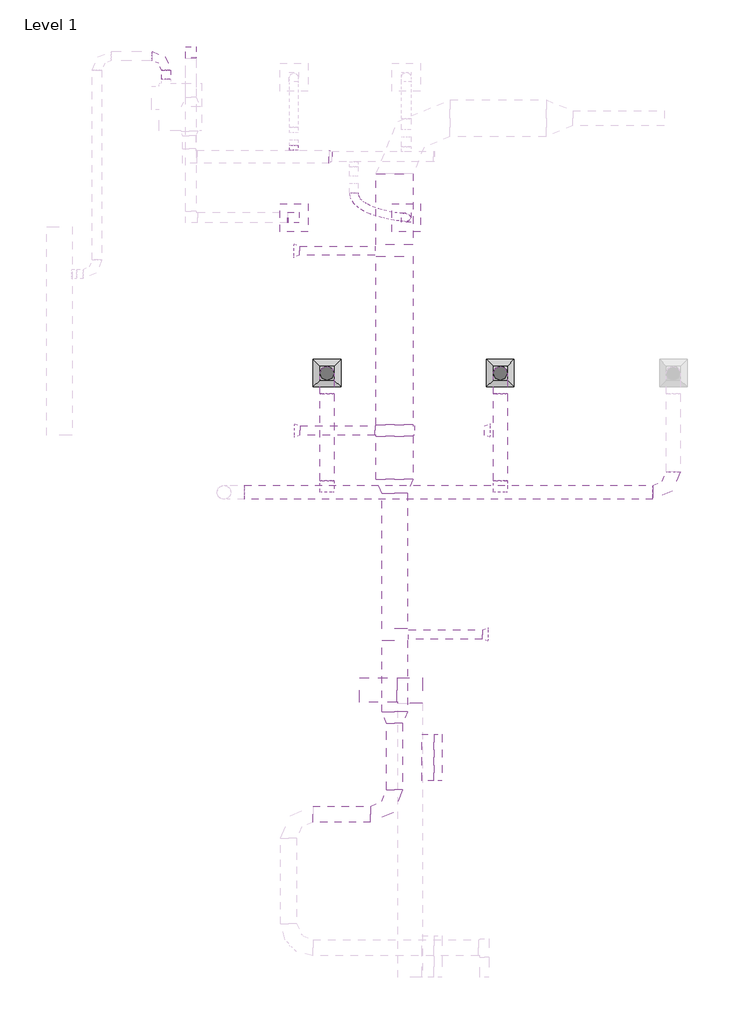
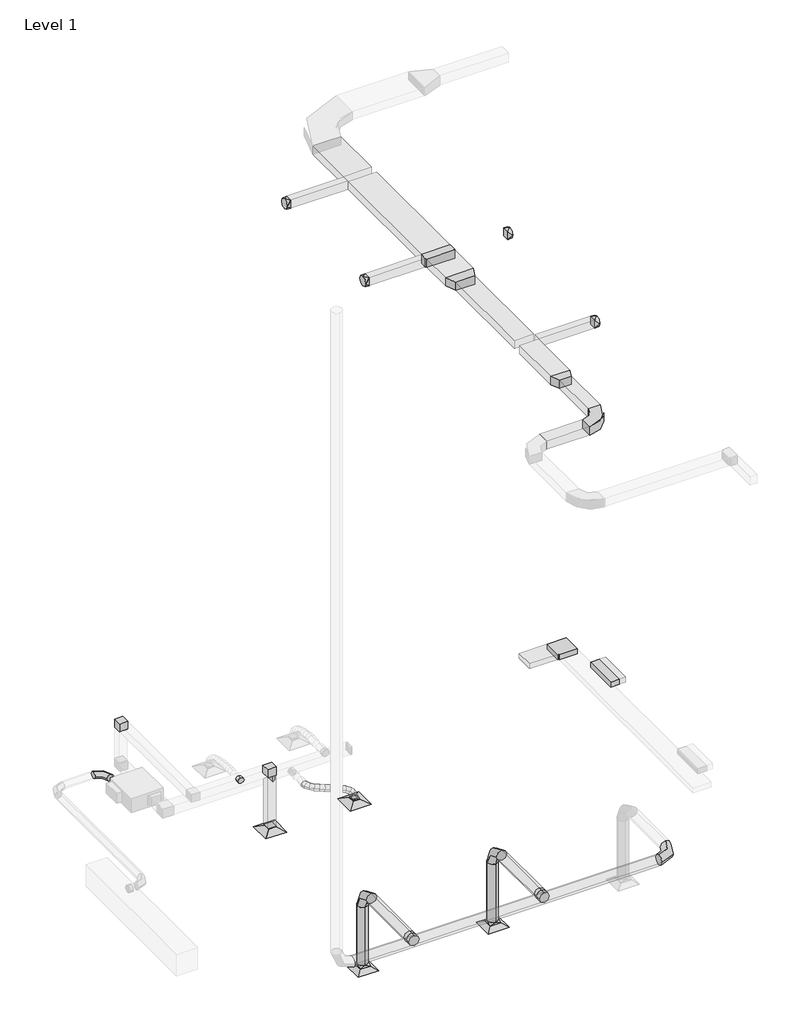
# One storey, part 6 of 7: 24 duct fittings, 20 duct segments, 4 air terminals.
"""IFC4 building model written with IfcOpenShell, lengths in millimetres."""

from ifc_helpers import new_model, si_unit, point, frame, frame_2d, origin, place, context, project, spatial, polyline, circle_curve, ellipse_curve, trimmed, segment, composite_curve, outline, extrude, transform, mapped, element, save
from ifc_brep_helpers import plane_surface, cylinder_surface, advanced_brep
from components import extract_grille_600_x_600_face_300_x_300_connection_8a0e72a1, return_diffuser_24_x_24_face_8_x_8_connection_c93705df, rectangular_cross_standard_00746d32, rectangular_elbow_mitered_standard_b28c36ac, rectangular_elbow_mitered_standard_6ca1f2d5, rectangular_elbow_radius_1_5_w_30cb73b9, rectangular_takeoff_standard_90e0e4da, rectangular_transition_angle_45_degree_7070cd09, rectangular_transition_angle_45_degree_58481bb1, rectangular_transition_angle_45_degree_8a643e5c, rectangular_transition_angle_45_degree_dc60f1d2, rectangular_to_round_transition_angle_45_degree_641efff0, rectangular_to_round_transition_angle_45_degree_389d55c9, rectangular_to_round_transition_angle_45_degree_714b46fd, round_elbow_1_5_d_83134554, round_elbow_1_5_d_ee9da881, round_takeoff_standard_db76dcd0, round_takeoff_standard_bc61291d

model = new_model("IFC4")

# Units and contexts
model_context = context("Model", 3, world=origin())
ifc_project = project(units=[si_unit("LENGTHUNIT", "METRE", prefix="MILLI")], contexts=[model_context])

# Site, building, storey
site = spatial("IfcSite", under=ifc_project)
building = spatial("IfcBuilding", under=site)
storey = spatial("IfcBuildingStorey", under=building, Name="Level 1", Elevation=0.0)

# Air terminals
placement = place(None, origin())
extract_grille_600_x_600_face_300_x_300_connection_shape = extract_grille_600_x_600_face_300_x_300_connection_8a0e72a1(model_context)
element("IfcAirTerminal", 1, ObjectType="Extract Grille : 600 x 600 Face 300 x 300 Connection", at=placement, inside=storey, context=model_context, shape_type="MappedRepresentation", body=[
    mapped(extract_grille_600_x_600_face_300_x_300_connection_shape, transform((4506.9369932, 10008.5089558, 0.0), x_axis=(1.0, 0.0, 0.0), y_axis=(0.0, 1.0, 0.0), z_axis=(0.0, 0.0, 1.0))),
])
element("IfcAirTerminal", 2, ObjectType="Extract Grille : 600 x 600 Face 300 x 300 Connection", at=placement, inside=storey, context=model_context, shape_type="MappedRepresentation", body=[
    mapped(extract_grille_600_x_600_face_300_x_300_connection_shape, transform((746.9369932, 10008.5089558, 0.0), x_axis=(1.0, 0.0, 0.0), y_axis=(0.0, 1.0, 0.0), z_axis=(0.0, 0.0, 1.0))),
])
return_diffuser_24_x_24_face_8_x_8_connection_shape = return_diffuser_24_x_24_face_8_x_8_connection_c93705df(model_context)
element("IfcAirTerminal", 3, ObjectType="Return Diffuser : 24 x 24 Face 8 x 8 Connection", at=placement, inside=storey, context=model_context, shape_type="MappedRepresentation", body=[
    mapped(return_diffuser_24_x_24_face_8_x_8_connection_shape, transform((25.949745, 13384.0612109, 2438.4), x_axis=(-1.0, 0.0, 0.0), y_axis=(0.0, -1.0, 0.0), z_axis=(0.0, 0.0, 1.0))),
])
element("IfcAirTerminal", 4, ObjectType="Supply Diffuser : 24 x 24 Face 8 x 8 Connection", at=placement, inside=storey, context=model_context, shape_type="MappedRepresentation", body=[
    mapped(return_diffuser_24_x_24_face_8_x_8_connection_shape, transform((2464.349745, 13384.0612109, 2438.4), x_axis=(-1.0, 0.0, 0.0), y_axis=(0.0, -1.0, 0.0), z_axis=(0.0, 0.0, 1.0))),
])

# Duct fittings
rectangular_cross_standard_shape = rectangular_cross_standard_00746d32(model_context)
element("IfcDuctFitting", 5, ObjectType="Rectangular Cross : Standard", at=placement, inside=storey, context=model_context, shape_type="MappedRepresentation", body=[
    mapped(rectangular_cross_standard_shape, transform((2213.8567543, 8760.722681, 21983.425), x_axis=(0.0, 1.0, 0.0), y_axis=(-0.9999999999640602, 0.0, -8.478184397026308e-06), z_axis=(-8.478184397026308e-06, 0.0, 0.9999999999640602))),
])
rectangular_elbow_mitered_standard_shape = rectangular_elbow_mitered_standard_b28c36ac(model_context)
element("IfcDuctFitting", 6, ObjectType="Rectangular Elbow - Mitered : Standard", at=placement, inside=storey, context=model_context, shape_type="MappedRepresentation", body=[
    mapped(rectangular_elbow_mitered_standard_shape, transform((-2206.7762728, 16980.0573996, 4267.2), x_axis=(0.0, 0.0, 1.0), y_axis=(0.0, 1.0, 0.0), z_axis=(-1.0, 0.0, 0.0))),
])
element("IfcDuctFitting", 7, ObjectType="Rectangular Elbow - Mitered : Standard", at=placement, inside=storey, context=model_context, shape_type="MappedRepresentation", body=[
    mapped(rectangular_elbow_mitered_standard_shape, transform((25.949745, 13384.0612109, 4267.2), x_axis=(1.0, 0.0, 0.0), y_axis=(0.0, 0.0, 1.0), z_axis=(0.0, -1.0, 0.0))),
])
rectangular_elbow_mitered_standard_2_shape = rectangular_elbow_mitered_standard_6ca1f2d5(model_context)
element("IfcDuctFitting", 8, ObjectType="Rectangular Elbow - Mitered : Standard", at=placement, inside=storey, context=model_context, shape_type="MappedRepresentation", body=[
    mapped(rectangular_elbow_mitered_standard_2_shape, transform((2551.2663778, 3129.3894661, 13295.0), x_axis=(0.0, 1.0, 0.0), y_axis=(-1.0, 0.0, 0.0), z_axis=(0.0, 0.0, 1.0))),
])
rectangular_elbow_radius_1_5_w_shape = rectangular_elbow_radius_1_5_w_30cb73b9(model_context)
element("IfcDuctFitting", 9, ObjectType="Rectangular Elbow - Radius : 1.5 W", at=placement, inside=storey, context=model_context, shape_type="MappedRepresentation", body=[
    mapped(rectangular_elbow_radius_1_5_w_shape, transform((2213.8567543, 435.7629451, 21983.425), x_axis=(1.0, 0.0, 0.0), y_axis=(0.0, 1.0, 0.0), z_axis=(0.0, 0.0, 1.0))),
])
rectangular_takeoff_standard_shape = rectangular_takeoff_standard_90e0e4da(model_context)
element("IfcDuctFitting", 10, ObjectType="Rectangular Takeoff : Standard", at=placement, inside=storey, context=model_context, shape_type="MappedRepresentation", body=[
    mapped(rectangular_takeoff_standard_shape, transform((2813.7663778, 1666.6648144, 13295.0), x_axis=(1.0, 0.0, 0.0), y_axis=(0.0, -1.0, 0.0), z_axis=(0.0, 0.0, -1.0))),
])
rectangular_transition_angle_45_degree_shape = rectangular_transition_angle_45_degree_7070cd09(model_context)
element("IfcDuctFitting", 11, ObjectType="Rectangular Transition - Angle : 45 Degree", at=placement, inside=storey, context=model_context, shape_type="MappedRepresentation", body=[
    mapped(rectangular_transition_angle_45_degree_shape, transform((853.9237272, 14707.0448996, 3048.0), x_axis=(-1.0, 0.0, 0.0), y_axis=(0.0, -1.0, 0.0), z_axis=(0.0, 0.0, 1.0))),
])
rectangular_transition_angle_45_degree_2_shape = rectangular_transition_angle_45_degree_58481bb1(model_context)
element("IfcDuctFitting", 12, ObjectType="Rectangular Transition - Angle : 45 Degree", at=placement, inside=storey, context=model_context, shape_type="MappedRepresentation", body=[
    mapped(rectangular_transition_angle_45_degree_2_shape, transform((2213.8567543, 2411.0275213, 21983.425), x_axis=(0.0, 1.0, 0.0), y_axis=(-1.0, 0.0, 0.0), z_axis=(0.0, 0.0, 1.0))),
])
rectangular_transition_angle_45_degree_3_shape = rectangular_transition_angle_45_degree_8a643e5c(model_context)
element("IfcDuctFitting", 13, ObjectType="Rectangular Transition - Angle : 45 Degree", at=placement, inside=storey, context=model_context, shape_type="MappedRepresentation", body=[
    mapped(rectangular_transition_angle_45_degree_3_shape, transform((2213.8567543, 7702.4641315, 21983.425), x_axis=(0.0, -1.0, 0.0), y_axis=(1.0, 0.0, 0.0), z_axis=(0.0, 0.0, 1.0))),
])
rectangular_transition_angle_45_degree_4_shape = rectangular_transition_angle_45_degree_dc60f1d2(model_context)
element("IfcDuctFitting", 14, ObjectType="Rectangular Transition - Angle : 45 Degree", at=placement, inside=storey, context=model_context, shape_type="MappedRepresentation", body=[
    mapped(rectangular_transition_angle_45_degree_4_shape, transform((25.949745, 13384.0612109, 2540.0), x_axis=(0.0, 0.0, 1.0), y_axis=(1.0, 0.0, 0.0), z_axis=(0.0, 1.0, 0.0))),
])
rectangular_to_round_transition_angle_45_degree_shape = rectangular_to_round_transition_angle_45_degree_641efff0(model_context)
element("IfcDuctFitting", 15, ObjectType="Rectangular to Round Transition - Angle : 45 Degree", at=placement, inside=storey, context=model_context, shape_type="MappedRepresentation", body=[
    mapped(rectangular_to_round_transition_angle_45_degree_shape, transform((4506.9369932, 10008.5089558, 100.0), x_axis=(0.0, 0.0, 1.0), y_axis=(1.0, 0.0, 0.0), z_axis=(0.0, 1.0, 0.0))),
])
element("IfcDuctFitting", 16, ObjectType="Rectangular to Round Transition - Angle : 45 Degree", at=placement, inside=storey, context=model_context, shape_type="MappedRepresentation", body=[
    mapped(rectangular_to_round_transition_angle_45_degree_shape, transform((746.9369932, 10008.5089558, 100.0), x_axis=(0.0, 0.0, 1.0), y_axis=(1.0, 0.0, 0.0), z_axis=(0.0, 1.0, 0.0))),
])
rectangular_to_round_transition_angle_45_degree_2_shape = rectangular_to_round_transition_angle_45_degree_389d55c9(model_context)
element("IfcDuctFitting", 17, ObjectType="Rectangular to Round Transition - Angle : 45 Degree", at=placement, inside=storey, context=model_context, shape_type="MappedRepresentation", body=[
    mapped(rectangular_to_round_transition_angle_45_degree_2_shape, transform((160.9038594, 8760.722681, 21983.4090919), x_axis=(-0.9999999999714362, 0.0, -7.558283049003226e-06), y_axis=(0.0, -1.0, 0.0), z_axis=(-7.558283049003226e-06, 0.0, 0.9999999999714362))),
])
element("IfcDuctFitting", 18, ObjectType="Rectangular to Round Transition - Angle : 45 Degree", at=placement, inside=storey, context=model_context, shape_type="MappedRepresentation", body=[
    mapped(rectangular_to_round_transition_angle_45_degree_2_shape, transform((4164.796004, 8760.722681, 21983.4136336), x_axis=(0.999999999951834, 0.0, -9.814891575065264e-06), y_axis=(0.0, 1.0, 0.0), z_axis=(9.814891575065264e-06, 0.0, 0.999999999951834))),
])
element("IfcDuctFitting", 19, ObjectType="Rectangular to Round Transition - Angle : 45 Degree", at=placement, inside=storey, context=model_context, shape_type="MappedRepresentation", body=[
    mapped(rectangular_to_round_transition_angle_45_degree_2_shape, transform((4121.0984817, 4332.0573383, 21983.4124758), x_axis=(0.9999999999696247, 0.0, -7.794266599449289e-06), y_axis=(0.0, 1.0, 0.0), z_axis=(7.794266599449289e-06, 0.0, 0.9999999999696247))),
])
element("IfcDuctFitting", 20, ObjectType="Rectangular to Round Transition - Angle : 45 Degree", at=placement, inside=storey, context=model_context, shape_type="MappedRepresentation", body=[
    mapped(rectangular_to_round_transition_angle_45_degree_2_shape, transform((146.2577887, 12661.2215712, 21983.4121079), x_axis=(-0.9999999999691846, 0.0, -7.850526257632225e-06), y_axis=(0.0, -1.0, 0.0), z_axis=(-7.850526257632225e-06, 0.0, 0.9999999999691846))),
])
rectangular_to_round_transition_angle_45_degree_3_shape = rectangular_to_round_transition_angle_45_degree_714b46fd(model_context)
element("IfcDuctFitting", 21, ObjectType="Rectangular to Round Transition - Angle : 45 Degree", at=placement, inside=storey, context=model_context, shape_type="MappedRepresentation", body=[
    mapped(rectangular_to_round_transition_angle_45_degree_3_shape, transform((2464.349745, 13384.0612109, 2540.0), x_axis=(0.0, 0.0, 1.0), y_axis=(1.0, 0.0, 0.0), z_axis=(0.0, 1.0, 0.0))),
])
round_elbow_1_5_d_shape = round_elbow_1_5_d_83134554(model_context)
element("IfcDuctFitting", 22, ObjectType="Round Elbow : 1.5 D", at=placement, inside=storey, context=model_context, shape_type="MappedRepresentation", body=[
    mapped(round_elbow_1_5_d_shape, transform((-2746.5262728, 16888.8948996, 3048.0), x_axis=(0.0, 1.0, 0.0), y_axis=(-1.0, 0.0, 0.0), z_axis=(0.0, 0.0, 1.0))),
])
round_elbow_1_5_d_2_shape = round_elbow_1_5_d_ee9da881(model_context)
element("IfcDuctFitting", 23, ObjectType="Round Elbow : 1.5 D", at=placement, inside=storey, context=model_context, shape_type="MappedRepresentation", body=[
    mapped(round_elbow_1_5_d_2_shape, transform((4506.9369932, 10008.5089558, 2400.0), x_axis=(0.0, 0.0, 1.0), y_axis=(0.0, -1.0, 0.0), z_axis=(1.0, 0.0, 0.0))),
])
element("IfcDuctFitting", 24, ObjectType="Round Elbow : 1.5 D", at=placement, inside=storey, context=model_context, shape_type="MappedRepresentation", body=[
    mapped(round_elbow_1_5_d_2_shape, transform((746.9369932, 10008.5089558, 2400.0), x_axis=(0.0, 0.0, 1.0), y_axis=(0.0, -1.0, 0.0), z_axis=(1.0, 0.0, 0.0))),
])
element("IfcDuctFitting", 25, ObjectType="Round Elbow : 1.5 D", at=placement, inside=storey, context=model_context, shape_type="MappedRepresentation", body=[
    mapped(round_elbow_1_5_d_2_shape, transform((8266.9369932, 7422.2278716, 2400.0), x_axis=(1.0, 0.0, 0.0), y_axis=(0.0, 1.0, 0.0), z_axis=(0.0, 0.0, 1.0))),
])
round_takeoff_standard_shape = round_takeoff_standard_db76dcd0(model_context)
element("IfcDuctFitting", 26, ObjectType="Round Takeoff : Standard", at=placement, inside=storey, context=model_context, shape_type="MappedRepresentation", body=[
    mapped(round_takeoff_standard_shape, transform((4506.9369932, 7572.2278716, 2400.0), x_axis=(0.0, 1.0, 0.0), y_axis=(1.0, 0.0, 0.0), z_axis=(0.0, 0.0, -1.0))),
])
element("IfcDuctFitting", 27, ObjectType="Round Takeoff : Standard", at=placement, inside=storey, context=model_context, shape_type="MappedRepresentation", body=[
    mapped(round_takeoff_standard_shape, transform((746.9369932, 7572.2278716, 2400.0), x_axis=(0.0, 1.0, 0.0), y_axis=(1.0, 0.0, 0.0), z_axis=(0.0, 0.0, -1.0))),
])
round_takeoff_standard_2_shape = round_takeoff_standard_bc61291d(model_context)
element("IfcDuctFitting", 28, ObjectType="Round Takeoff : Standard", at=placement, inside=storey, context=model_context, shape_type="MappedRepresentation", body=[
    mapped(round_takeoff_standard_2_shape, transform((25.949745, 14846.7448996, 3048.0), x_axis=(0.0, 1.0, 0.0), y_axis=(-1.0, 0.0, 0.0), z_axis=(0.0, 0.0, 1.0))),
])

# Duct segments
element("IfcDuctSegment", 29, ObjectType="Flex - Round", at=placement, inside=storey, context=model_context, shape_type="AdvancedBrep", body=[
    advanced_brep(
    [(2553.249745, 13384.0612109, 2570.6605122), (2464.349745, 13295.1612109, 2570.6605122), (2375.449745, 13384.0612109, 2570.6605122), (2464.349745, 13472.9612109, 2570.6605122), (2553.249745, 13384.0612109, 2598.7450759), (2464.349745, 13295.1612109, 2589.0203503), (2375.449745, 13384.0612109, 2577.4336516), (2464.349745, 13472.9612109, 2587.1583772), (1347.7444302, 13919.6448996, 3134.3864527), (1413.1406281, 13919.6448996, 3027.0097452), (1305.7639207, 13919.6448996, 2961.6135473), (1240.3677228, 13919.6448996, 3068.9902548), (2528.0163439, 13386.2658459, 2702.4816872), (2444.5659461, 13296.8897158, 2670.3531935), (2362.3663177, 13385.2043062, 2631.2207097), (2445.8167155, 13474.5804364, 2663.3492034), (2459.5651449, 13393.3506286, 2808.202258), (2389.2010943, 13302.6200455, 2755.8623419), (2324.151751, 13389.1595605, 2690.2418207), (2394.5158015, 13479.8901436, 2742.5817368), (2362.0828123, 13405.4784576, 2891.6822174), (2304.8540697, 13313.1137038, 2828.0937505), (2259.04646, 13397.2593445, 2745.9953803), (2316.2752027, 13489.6240982, 2809.5838472), (2246.6744499, 13422.7886465, 2956.5633193), (2198.3033598, 13329.0953266, 2887.9951937), (2168.3724206, 13410.8596133, 2796.9711629), (2216.7435108, 13504.5529331, 2865.5392885), (2119.3311622, 13445.9260619, 3007.367324), (2075.8003317, 13351.3532995, 2936.8681616), (2058.5656078, 13430.8107696, 2840.7789358), (2102.0964383, 13525.383532, 2911.2780982), (1985.3207171, 13475.6640244, 3046.9213284), (1943.3619546, 13380.7424079, 2975.9581605), (1936.7853331, 13457.8347619, 2876.7231304), (1978.7440957, 13552.7563784, 2947.6862983), (1850.135585, 13512.7777286, 3077.1136361), (1806.8636685, 13418.2166252, 3006.4437486), (1809.9662057, 13492.6516646, 2905.046971), (1853.2381222, 13587.212768, 2975.7168585), (1719.5736793, 13557.9985656, 3099.4016507), (1672.0226504, 13464.9195564, 3029.4622437), (1684.7373916, 13536.0253559, 2926.424582), (1732.2884206, 13629.104365, 2996.363989), (1599.6857196, 13611.9664343, 3115.0462928), (1544.3497759, 13522.3918242, 3046.1227693), (1567.4752508, 13588.8112056, 2941.7265708), (1622.8111945, 13678.3858157, 3010.6500943), (1496.720041, 13675.124199, 3125.2184139), (1429.2248261, 13593.0079225, 3057.4961215), (1464.3585277, 13652.0616189, 2951.9136139), (1531.8537425, 13734.1778954, 3019.6359062), (1416.9516843, 13747.5187113, 3131.0583463), (1332.7003948, 13680.6095659, 3064.5627853), (1381.5392609, 13727.225013, 2957.9769069), (1465.7905503, 13794.1341585, 3024.4724679), (1365.8183567, 13829.1104085, 3133.7327129), (1265.2691938, 13788.2072207, 3068.0895605), (1326.0068228, 13815.8362199, 2960.881355), (1426.5559857, 13856.7394077, 3026.5245074), (1347.7444302, 13904.5579816, 3134.3864527), (1240.3677228, 13892.1556105, 3068.9902548), (1305.7639207, 13900.3379377, 2961.6135473), (1413.1406281, 13912.7403088, 3027.0097452)],
    [
        (0, 1, circle_curve(frame((2464.349745, 13384.0612109, 2570.6605122), z_axis=(0.0, 0.0, -1.0), x_axis=(1.0, 0.0, 0.0)), 88.9)),
        (1, 2, circle_curve(frame((2464.349745, 13384.0612109, 2570.6605122), z_axis=(0.0, 0.0, -1.0), x_axis=(1.0, 0.0, 0.0)), 88.9)),
        (2, 3, circle_curve(frame((2464.349745, 13384.0612109, 2570.6605122), z_axis=(0.0, 0.0, -1.0), x_axis=(1.0, 0.0, 0.0)), 88.9)),
        (3, 0, circle_curve(frame((2464.349745, 13384.0612109, 2570.6605122), z_axis=(0.0, 0.0, -1.0), x_axis=(1.0, 0.0, 0.0)), 88.9)),
        (0, 4),
        (4, 5, ellipse_curve(frame((2464.349745, 13384.0612109, 2588.0893638), z_axis=(0.119003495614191, -0.01039730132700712, -0.9928393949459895), x_axis=(-0.9890715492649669, 0.08641489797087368, -0.11945683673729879)), 89.5411689, 88.9)),
        (5, 1),
        (5, 6, ellipse_curve(frame((2464.349745, 13384.0612109, 2588.0893638), z_axis=(0.119003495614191, -0.01039730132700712, -0.9928393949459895), x_axis=(-0.9890715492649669, 0.08641489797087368, -0.11945683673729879)), 89.5411689, 88.9)),
        (6, 2),
        (6, 7, ellipse_curve(frame((2464.349745, 13384.0612109, 2588.0893638), z_axis=(0.119003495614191, -0.01039730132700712, -0.9928393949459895), x_axis=(-0.9890715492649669, 0.08641489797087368, -0.11945683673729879)), 89.5411689, 88.9)),
        (7, 3),
        (7, 4, ellipse_curve(frame((2464.349745, 13384.0612109, 2588.0893638), z_axis=(0.119003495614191, -0.01039730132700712, -0.9928393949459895), x_axis=(-0.9890715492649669, 0.08641489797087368, -0.11945683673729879)), 89.5411689, 88.9)),
        (8, 9, circle_curve(frame((1326.7541755, 13919.6448996, 3048.0), z_axis=(0.0, 1.0, 0.0), x_axis=(0.236110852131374, 0.0, 0.9717261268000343)), 88.9)),
        (9, 10, circle_curve(frame((1326.7541755, 13919.6448996, 3048.0), z_axis=(0.0, 1.0, 0.0), x_axis=(0.236110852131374, 0.0, 0.9717261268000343)), 88.9)),
        (10, 11, circle_curve(frame((1326.7541755, 13919.6448996, 3048.0), z_axis=(0.0, 1.0, 0.0), x_axis=(0.236110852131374, 0.0, 0.9717261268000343)), 88.9)),
        (11, 8, circle_curve(frame((1326.7541755, 13919.6448996, 3048.0), z_axis=(0.0, 1.0, 0.0), x_axis=(0.236110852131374, 0.0, 0.9717261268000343)), 88.9)),
        (4, 12),
        (12, 13, ellipse_curve(frame((2445.1913308, 13385.7350761, 2666.8511985), z_axis=(0.3950856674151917, -0.038958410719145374, -0.9178178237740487), x_axis=(-0.9117312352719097, 0.10571051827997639, -0.39695269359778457)), 90.1817019, 88.9)),
        (13, 5),
        (13, 14, ellipse_curve(frame((2445.1913308, 13385.7350761, 2666.8511985), z_axis=(0.3950856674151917, -0.038958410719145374, -0.9178178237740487), x_axis=(-0.9117312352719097, 0.10571051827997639, -0.39695269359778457)), 90.1817019, 88.9)),
        (14, 6),
        (14, 15, ellipse_curve(frame((2445.1913308, 13385.7350761, 2666.8511985), z_axis=(0.3950856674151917, -0.038958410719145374, -0.9178178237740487), x_axis=(-0.9117312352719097, 0.10571051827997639, -0.39695269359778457)), 90.1817019, 88.9)),
        (15, 7),
        (15, 12, ellipse_curve(frame((2445.1913308, 13385.7350761, 2666.8511985), z_axis=(0.3950856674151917, -0.038958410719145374, -0.9178178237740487), x_axis=(-0.9117312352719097, 0.10571051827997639, -0.39695269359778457)), 90.1817019, 88.9)),
        (12, 16),
        (16, 17, ellipse_curve(frame((2391.8584479, 13391.2550946, 2749.2220393), z_axis=(0.656282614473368, -0.07591533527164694, -0.7506863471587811), x_axis=(-0.7397188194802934, 0.13133227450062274, -0.6599756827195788)), 89.8408111, 88.9)),
        (17, 13),
        (17, 18, ellipse_curve(frame((2391.8584479, 13391.2550946, 2749.2220393), z_axis=(0.656282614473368, -0.07591533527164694, -0.7506863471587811), x_axis=(-0.7397188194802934, 0.13133227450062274, -0.6599756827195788)), 89.8408111, 88.9)),
        (18, 14),
        (18, 19, ellipse_curve(frame((2391.8584479, 13391.2550946, 2749.2220393), z_axis=(0.656282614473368, -0.07591533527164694, -0.7506863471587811), x_axis=(-0.7397188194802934, 0.13133227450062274, -0.6599756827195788)), 89.8408111, 88.9)),
        (19, 15),
        (19, 16, ellipse_curve(frame((2391.8584479, 13391.2550946, 2749.2220393), z_axis=(0.656282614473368, -0.07591533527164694, -0.7506863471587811), x_axis=(-0.7397188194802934, 0.13133227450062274, -0.6599756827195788)), 89.8408111, 88.9)),
        (16, 20),
        (20, 21, ellipse_curve(frame((2310.5646362, 13401.368901, 2818.8387989), z_axis=(0.8142472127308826, -0.11241030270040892, -0.5695308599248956), x_axis=(-0.5470184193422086, 0.17988182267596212, -0.817565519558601)), 89.337613, 88.9)),
        (21, 17),
        (21, 22, ellipse_curve(frame((2310.5646362, 13401.368901, 2818.8387989), z_axis=(0.8142472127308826, -0.11241030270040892, -0.5695308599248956), x_axis=(-0.5470184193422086, 0.17988182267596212, -0.817565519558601)), 89.337613, 88.9)),
        (22, 18),
        (22, 23, ellipse_curve(frame((2310.5646362, 13401.368901, 2818.8387989), z_axis=(0.8142472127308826, -0.11241030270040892, -0.5695308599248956), x_axis=(-0.5470184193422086, 0.17988182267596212, -0.817565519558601)), 89.337613, 88.9)),
        (23, 19),
        (23, 20, ellipse_curve(frame((2310.5646362, 13401.368901, 2818.8387989), z_axis=(0.8142472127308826, -0.11241030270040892, -0.5695308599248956), x_axis=(-0.5470184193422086, 0.17988182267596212, -0.817565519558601)), 89.337613, 88.9)),
        (20, 24),
        (24, 25, ellipse_curve(frame((2207.5234353, 13416.8241299, 2876.7672411), z_axis=(0.8921679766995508, -0.148368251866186, -0.42664172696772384), x_axis=(-0.37847202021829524, 0.2700382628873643, -0.8853464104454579)), 89.106684, 88.9)),
        (25, 21),
        (25, 26, ellipse_curve(frame((2207.5234353, 13416.8241299, 2876.7672411), z_axis=(0.8921679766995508, -0.148368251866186, -0.42664172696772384), x_axis=(-0.37847202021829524, 0.2700382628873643, -0.8853464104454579)), 89.106684, 88.9)),
        (26, 22),
        (26, 27, ellipse_curve(frame((2207.5234353, 13416.8241299, 2876.7672411), z_axis=(0.8921679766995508, -0.148368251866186, -0.42664172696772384), x_axis=(-0.37847202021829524, 0.2700382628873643, -0.8853464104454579)), 89.106684, 88.9)),
        (27, 23),
        (27, 24, ellipse_curve(frame((2207.5234353, 13416.8241299, 2876.7672411), z_axis=(0.8921679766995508, -0.148368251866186, -0.42664172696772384), x_axis=(-0.37847202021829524, 0.2700382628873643, -0.8853464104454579)), 89.106684, 88.9)),
        (24, 28),
        (28, 29, ellipse_curve(frame((2088.948385, 13438.3684157, 2924.0731299), z_axis=(0.9281421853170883, -0.1875232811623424, -0.3215386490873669), x_axis=(-0.22144592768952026, 0.4161496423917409, -0.8819190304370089)), 89.0121257, 88.9)),
        (29, 25),
        (29, 30, ellipse_curve(frame((2088.948385, 13438.3684157, 2924.0731299), z_axis=(0.9281421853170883, -0.1875232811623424, -0.3215386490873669), x_axis=(-0.22144592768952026, 0.4161496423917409, -0.8819190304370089)), 89.0121257, 88.9)),
        (30, 26),
        (30, 31, ellipse_curve(frame((2088.948385, 13438.3684157, 2924.0731299), z_axis=(0.9281421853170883, -0.1875232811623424, -0.3215386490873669), x_axis=(-0.22144592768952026, 0.4161496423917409, -0.8819190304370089)), 89.0121257, 88.9)),
        (31, 27),
        (31, 28, ellipse_curve(frame((2088.948385, 13438.3684157, 2924.0731299), z_axis=(0.9281421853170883, -0.1875232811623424, -0.3215386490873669), x_axis=(-0.22144592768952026, 0.4161496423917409, -0.8819190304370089)), 89.0121257, 88.9)),
        (28, 32),
        (32, 33, ellipse_curve(frame((1961.0530251, 13466.7493931, 2961.8222294), z_axis=(0.941216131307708, -0.23369308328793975, -0.24392567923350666), x_axis=(-0.055254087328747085, 0.6058607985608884, -0.7936495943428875)), 88.97774, 88.9)),
        (33, 29),
        (33, 34, ellipse_curve(frame((1961.0530251, 13466.7493931, 2961.8222294), z_axis=(0.941216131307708, -0.23369308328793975, -0.24392567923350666), x_axis=(-0.055254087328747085, 0.6058607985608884, -0.7936495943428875)), 88.97774, 88.9)),
        (34, 30),
        (34, 35, ellipse_curve(frame((1961.0530251, 13466.7493931, 2961.8222294), z_axis=(0.941216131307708, -0.23369308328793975, -0.24392567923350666), x_axis=(-0.055254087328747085, 0.6058607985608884, -0.7936495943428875)), 88.97774, 88.9)),
        (35, 31),
        (35, 32, ellipse_curve(frame((1961.0530251, 13466.7493931, 2961.8222294), z_axis=(0.941216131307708, -0.23369308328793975, -0.24392567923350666), x_axis=(-0.055254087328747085, 0.6058607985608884, -0.7936495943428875)), 88.97774, 88.9)),
        (32, 36),
        (36, 37, ellipse_curve(frame((1830.0508954, 13502.7146966, 2991.0803036), z_axis=(0.9385911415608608, -0.29120672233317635, -0.1850548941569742), x_axis=(0.1187235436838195, 0.7761725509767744, -0.6192421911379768)), 88.9763491, 88.9)),
        (37, 33),
        (37, 38, ellipse_curve(frame((1830.0508954, 13502.7146966, 2991.0803036), z_axis=(0.9385911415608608, -0.29120672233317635, -0.1850548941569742), x_axis=(0.1187235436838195, 0.7761725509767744, -0.6192421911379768)), 88.9763491, 88.9)),
        (38, 34),
        (38, 39, ellipse_curve(frame((1830.0508954, 13502.7146966, 2991.0803036), z_axis=(0.9385911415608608, -0.29120672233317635, -0.1850548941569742), x_axis=(0.1187235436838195, 0.7761725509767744, -0.6192421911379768)), 88.9763491, 88.9)),
        (39, 35),
        (39, 36, ellipse_curve(frame((1830.0508954, 13502.7146966, 2991.0803036), z_axis=(0.9385911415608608, -0.29120672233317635, -0.1850548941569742), x_axis=(0.1187235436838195, 0.7761725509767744, -0.6192421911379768)), 88.9763491, 88.9)),
        (36, 40),
        (40, 41, ellipse_curve(frame((1702.1555355, 13547.0119607, 3012.9131164), z_axis=(0.9202775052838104, -0.3657926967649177, -0.13887050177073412), x_axis=(0.279828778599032, 0.8633896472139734, -0.41982635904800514)), 89.0066347, 88.9)),
        (41, 37),
        (41, 42, ellipse_curve(frame((1702.1555355, 13547.0119607, 3012.9131164), z_axis=(0.9202775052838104, -0.3657926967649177, -0.13887050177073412), x_axis=(0.279828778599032, 0.8633896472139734, -0.41982635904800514)), 89.0066347, 88.9)),
        (42, 38),
        (42, 43, ellipse_curve(frame((1702.1555355, 13547.0119607, 3012.9131164), z_axis=(0.9202775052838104, -0.3657926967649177, -0.13887050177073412), x_axis=(0.279828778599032, 0.8633896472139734, -0.41982635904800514)), 89.0066347, 88.9)),
        (43, 39),
        (43, 40, ellipse_curve(frame((1702.1555355, 13547.0119607, 3012.9131164), z_axis=(0.9202775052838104, -0.3657926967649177, -0.13887050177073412), x_axis=(0.279828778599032, 0.8633896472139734, -0.41982635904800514)), 89.0066347, 88.9)),
        (40, 44),
        (44, 45, ellipse_curve(frame((1583.5804852, 13600.38882, 3028.3864318), z_axis=(0.8793365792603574, -0.4653113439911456, -0.10125479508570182), x_axis=(0.4277928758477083, 0.865290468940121, -0.2612769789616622)), 89.0915192, 88.9)),
        (45, 41),
        (45, 46, ellipse_curve(frame((1583.5804852, 13600.38882, 3028.3864318), z_axis=(0.8793365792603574, -0.4653113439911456, -0.10125479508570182), x_axis=(0.4277928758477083, 0.865290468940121, -0.2612769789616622)), 89.0915192, 88.9)),
        (46, 42),
        (46, 47, ellipse_curve(frame((1583.5804852, 13600.38882, 3028.3864318), z_axis=(0.8793365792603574, -0.4653113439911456, -0.10125479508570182), x_axis=(0.4277928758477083, 0.865290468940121, -0.2612769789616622)), 89.0915192, 88.9)),
        (47, 43),
        (47, 44, ellipse_curve(frame((1583.5804852, 13600.38882, 3028.3864318), z_axis=(0.8793365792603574, -0.4653113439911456, -0.10125479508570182), x_axis=(0.4277928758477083, 0.865290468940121, -0.2612769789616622)), 89.0915192, 88.9)),
        (44, 48),
        (48, 49, ellipse_curve(frame((1480.5392843, 13663.592909, 3038.5660139), z_axis=(0.7979636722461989, -0.5987044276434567, -0.06933243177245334), x_axis=(0.5837808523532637, 0.7963773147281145, -0.15806039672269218)), 89.2971381, 88.9)),
        (49, 45),
        (49, 50, ellipse_curve(frame((1480.5392843, 13663.592909, 3038.5660139), z_axis=(0.7979636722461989, -0.5987044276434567, -0.06933243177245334), x_axis=(0.5837808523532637, 0.7963773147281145, -0.15806039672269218)), 89.2971381, 88.9)),
        (50, 46),
        (50, 51, ellipse_curve(frame((1480.5392843, 13663.592909, 3038.5660139), z_axis=(0.7979636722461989, -0.5987044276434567, -0.06933243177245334), x_axis=(0.5837808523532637, 0.7963773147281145, -0.15806039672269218)), 89.2971381, 88.9)),
        (51, 47),
        (51, 48, ellipse_curve(frame((1480.5392843, 13663.592909, 3038.5660139), z_axis=(0.7979636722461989, -0.5987044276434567, -0.06933243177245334), x_axis=(0.5837808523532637, 0.7963773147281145, -0.15806039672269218)), 89.2971381, 88.9)),
        (48, 52),
        (52, 53, ellipse_curve(frame((1399.2454726, 13737.3718622, 3044.5176266), z_axis=(0.641176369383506, -0.7662793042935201, -0.04133873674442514), x_axis=(0.7608191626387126, 0.6417965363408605, -0.09618423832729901)), 89.7472489, 88.9)),
        (53, 49),
        (53, 54, ellipse_curve(frame((1399.2454726, 13737.3718622, 3044.5176266), z_axis=(0.641176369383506, -0.7662793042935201, -0.04133873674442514), x_axis=(0.7608191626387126, 0.6417965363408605, -0.09618423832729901)), 89.7472489, 88.9)),
        (54, 50),
        (54, 55, ellipse_curve(frame((1399.2454726, 13737.3718622, 3044.5176266), z_axis=(0.641176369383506, -0.7662793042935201, -0.04133873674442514), x_axis=(0.7608191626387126, 0.6417965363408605, -0.09618423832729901)), 89.7472489, 88.9)),
        (55, 51),
        (55, 52, ellipse_curve(frame((1399.2454726, 13737.3718622, 3044.5176266), z_axis=(0.641176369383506, -0.7662793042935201, -0.04133873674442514), x_axis=(0.7608191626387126, 0.6417965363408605, -0.09618423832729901)), 89.7472489, 88.9)),
        (52, 56),
        (56, 57, ellipse_curve(frame((1345.9125897, 13822.4733142, 3047.307034), z_axis=(0.386997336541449, -0.9218984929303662, -0.018336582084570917), x_axis=(0.9199831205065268, 0.3873811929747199, -0.05972327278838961)), 90.0883702, 88.9)),
        (57, 53),
        (57, 58, ellipse_curve(frame((1345.9125897, 13822.4733142, 3047.307034), z_axis=(0.386997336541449, -0.9218984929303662, -0.018336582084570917), x_axis=(0.9199831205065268, 0.3873811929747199, -0.05972327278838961)), 90.0883702, 88.9)),
        (58, 54),
        (58, 59, ellipse_curve(frame((1345.9125897, 13822.4733142, 3047.307034), z_axis=(0.386997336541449, -0.9218984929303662, -0.018336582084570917), x_axis=(0.9199831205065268, 0.3873811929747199, -0.05972327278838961)), 90.0883702, 88.9)),
        (59, 55),
        (59, 56, ellipse_curve(frame((1345.9125897, 13822.4733142, 3047.307034), z_axis=(0.386997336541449, -0.9218984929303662, -0.018336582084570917), x_axis=(0.9199831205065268, 0.3873811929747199, -0.05972327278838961)), 90.0883702, 88.9)),
        (56, 60),
        (60, 61, ellipse_curve(frame((1326.7541755, 13902.4479596, 3048.0), z_axis=(0.11728885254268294, -0.9930887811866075, -0.004242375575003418), x_axis=(0.9924397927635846, 0.11736555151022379, -0.03589686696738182)), 89.5186832, 88.9)),
        (61, 57),
        (61, 62, ellipse_curve(frame((1326.7541755, 13902.4479596, 3048.0), z_axis=(0.11728885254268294, -0.9930887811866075, -0.004242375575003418), x_axis=(0.9924397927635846, 0.11736555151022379, -0.03589686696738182)), 89.5186832, 88.9)),
        (62, 58),
        (62, 63, ellipse_curve(frame((1326.7541755, 13902.4479596, 3048.0), z_axis=(0.11728885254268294, -0.9930887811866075, -0.004242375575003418), x_axis=(0.9924397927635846, 0.11736555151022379, -0.03589686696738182)), 89.5186832, 88.9)),
        (63, 59),
        (63, 60, ellipse_curve(frame((1326.7541755, 13902.4479596, 3048.0), z_axis=(0.11728885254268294, -0.9930887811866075, -0.004242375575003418), x_axis=(0.9924397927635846, 0.11736555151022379, -0.03589686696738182)), 89.5186832, 88.9)),
        (60, 8),
        (11, 61),
        (10, 62),
        (9, 63),
    ],
    [
        plane_surface(frame((2464.349745, 13295.1612109, 2570.6605122), z_axis=(0.0, 0.0, -1.0), x_axis=(1.0, 0.0, 0.0))),
        cylinder_surface(frame((2464.349745, 13384.0612109, 2570.6605122), z_axis=(0.0, 0.0, -1.0), x_axis=(1.0, 0.0, 0.0)), 88.9),
        plane_surface(frame((1237.8541755, 13919.6448996, 3048.0), z_axis=(0.0, 1.0, 0.0), x_axis=(0.0, 0.0, 1.0))),
        cylinder_surface(frame((2464.349745, 13384.0612109, 2588.0893638), z_axis=(0.23630271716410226, -0.02064570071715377, -0.9714601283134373), x_axis=(0.9716763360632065, 0.002474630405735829, 0.23630271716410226)), 88.9),
        cylinder_surface(frame((2445.1913308, 13385.7350761, 2666.8511985), z_axis=(0.5426383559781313, -0.05616373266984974, -0.8380866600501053), x_axis=(0.8397839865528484, 0.015480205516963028, 0.5426999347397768)), 88.9),
        cylinder_surface(frame((2391.8584479, 13391.2550946, 2749.2220393), z_axis=(0.7561817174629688, -0.09407697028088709, -0.6475636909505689), x_axis=(0.6526607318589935, 0.037125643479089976, 0.756740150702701)), 88.9),
        cylinder_surface(frame((2310.5646362, 13401.368901, 2818.8387989), z_axis=(0.8643356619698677, -0.12964236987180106, -0.4859184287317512), x_axis=(0.4958904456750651, 0.058768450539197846, 0.8663942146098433)), 88.9),
        cylinder_surface(frame((2207.5234353, 13416.8241299, 2876.7672411), z_axis=(0.9158615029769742, -0.16640585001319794, -0.36538582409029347), x_axis=(0.38158895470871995, 0.07777688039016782, 0.9210540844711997)), 88.9),
        cylinder_surface(frame((2088.948385, 13438.3684157, 2924.0731299), z_axis=(0.9380845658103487, -0.20816827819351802, -0.27688141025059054), x_axis=(0.300971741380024, 0.09406490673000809, 0.9489825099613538)), 88.9),
        cylinder_surface(frame((1961.0530251, 13466.7493931, 2961.8222294), z_axis=(0.9427030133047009, -0.2588095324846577, -0.21054371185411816), x_axis=(0.24484526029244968, 0.10800046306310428, 0.9635282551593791)), 88.9),
        cylinder_surface(frame((1830.0508954, 13502.7146966, 2991.0803036), z_axis=(0.9328684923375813, -0.3231041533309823, -0.1592484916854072), x_axis=(0.20720116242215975, 0.11967989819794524, 0.9709502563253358)), 88.9),
        cylinder_surface(frame((1702.1555355, 13547.0119607, 3012.9131164), z_axis=(0.9054814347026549, -0.4076047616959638, -0.11815976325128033), x_axis=(0.18498900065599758, 0.12850880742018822, 0.9743020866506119)), 88.9),
        cylinder_surface(frame((1583.5804852, 13600.38882, 3028.3864318), z_axis=(0.8494111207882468, -0.5210173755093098, -0.08391449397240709), x_axis=(0.1775705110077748, 0.13243438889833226, 0.9751563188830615)), 88.9),
        cylinder_surface(frame((1480.5392843, 13663.592909, 3038.5660139), z_axis=(0.7394185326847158, -0.671066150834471, -0.054133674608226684), x_axis=(0.1858760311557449, 0.12620283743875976, 0.9744346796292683)), 88.9),
        cylinder_surface(frame((1399.2454726, 13737.3718622, 3044.5176266), z_axis=(0.5308282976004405, -0.8470245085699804, -0.027763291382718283), x_axis=(0.20871371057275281, 0.09890919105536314, 0.972962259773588)), 88.9),
        cylinder_surface(frame((1345.9125897, 13822.4733142, 3047.307034), z_axis=(0.23295648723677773, -0.9724506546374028, -0.008426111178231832), x_axis=(0.23058168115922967, 0.04681568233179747, 0.9719261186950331)), 88.9),
        cylinder_surface(frame((1326.7541755, 13902.4479596, 3048.0), z_axis=(0.0, -1.0, 0.0), x_axis=(0.236110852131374, 0.0, 0.9717261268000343)), 88.9),
    ],
    [
        (0, [[1, 2, 3, 4]]),
        (1, [[-1, 5, 6, 7]]),
        (1, [[-2, -7, 8, 9]]),
        (1, [[-3, -9, 10, 11]]),
        (1, [[-4, -11, 12, -5]]),
        (2, [[13, 14, 15, 16]]),
        (3, [[-6, 17, 18, 19]]),
        (3, [[-8, -19, 20, 21]]),
        (3, [[-10, -21, 22, 23]]),
        (3, [[-12, -23, 24, -17]]),
        (4, [[-18, 25, 26, 27]]),
        (4, [[-20, -27, 28, 29]]),
        (4, [[-22, -29, 30, 31]]),
        (4, [[-24, -31, 32, -25]]),
        (5, [[-26, 33, 34, 35]]),
        (5, [[-28, -35, 36, 37]]),
        (5, [[-30, -37, 38, 39]]),
        (5, [[-32, -39, 40, -33]]),
        (6, [[-34, 41, 42, 43]]),
        (6, [[-36, -43, 44, 45]]),
        (6, [[-38, -45, 46, 47]]),
        (6, [[-40, -47, 48, -41]]),
        (7, [[-42, 49, 50, 51]]),
        (7, [[-44, -51, 52, 53]]),
        (7, [[-46, -53, 54, 55]]),
        (7, [[-48, -55, 56, -49]]),
        (8, [[-50, 57, 58, 59]]),
        (8, [[-52, -59, 60, 61]]),
        (8, [[-54, -61, 62, 63]]),
        (8, [[-56, -63, 64, -57]]),
        (9, [[-58, 65, 66, 67]]),
        (9, [[-60, -67, 68, 69]]),
        (9, [[-62, -69, 70, 71]]),
        (9, [[-64, -71, 72, -65]]),
        (10, [[-66, 73, 74, 75]]),
        (10, [[-68, -75, 76, 77]]),
        (10, [[-70, -77, 78, 79]]),
        (10, [[-72, -79, 80, -73]]),
        (11, [[-74, 81, 82, 83]]),
        (11, [[-76, -83, 84, 85]]),
        (11, [[-78, -85, 86, 87]]),
        (11, [[-80, -87, 88, -81]]),
        (12, [[-82, 89, 90, 91]]),
        (12, [[-84, -91, 92, 93]]),
        (12, [[-86, -93, 94, 95]]),
        (12, [[-88, -95, 96, -89]]),
        (13, [[-90, 97, 98, 99]]),
        (13, [[-92, -99, 100, 101]]),
        (13, [[-94, -101, 102, 103]]),
        (13, [[-96, -103, 104, -97]]),
        (14, [[-98, 105, 106, 107]]),
        (14, [[-100, -107, 108, 109]]),
        (14, [[-102, -109, 110, 111]]),
        (14, [[-104, -111, 112, -105]]),
        (15, [[-106, 113, 114, 115]]),
        (15, [[-108, -115, 116, 117]]),
        (15, [[-110, -117, 118, 119]]),
        (15, [[-112, -119, 120, -113]]),
        (16, [[-114, 121, -16, 122]]),
        (16, [[-116, -122, -15, 123]]),
        (16, [[-118, -123, -14, 124]]),
        (16, [[-120, -124, -13, -121]]),
    ],
),
])
element("IfcDuctSegment", 30, ObjectType="Mitered Elbows / Tees", at=placement, inside=storey, context=model_context, shape_type="SweptSolid", body=[
    extrude(outline(polyline([(1813.8567543, 8635.322681), (2613.8567543, 8635.322681), (2613.8567543, 7702.4641315), (1813.8567543, 7702.4641315), (1813.8567543, 8635.322681)])), frame((0.0, 0.0, 21858.425), z_axis=(0.0, 0.0, 1.0), x_axis=(1.0, 0.0, 0.0)), (0.0, 0.0, 1.0), 250.0),
])
element("IfcDuctSegment", 31, ObjectType="Mitered Elbows / Tees", at=placement, inside=storey, context=model_context, shape_type="SweptSolid", body=[
    extrude(outline(polyline([(1938.8567543, 4206.6573383), (2488.8567543, 4206.6573383), (2488.8567543, 2652.4488775), (1938.8567543, 2652.4488775), (1938.8567543, 4206.6573383)])), frame((0.0, 0.0, 21858.425), z_axis=(0.0, 0.0, 1.0), x_axis=(1.0, 0.0, 0.0)), (0.0, 0.0, 1.0), 250.0),
])
element("IfcDuctSegment", 32, ObjectType="Mitered Elbows / Tees", at=placement, inside=storey, context=model_context, shape_type="SweptSolid", body=[
    extrude(outline(polyline([(2388.8567543, 960.7629451), (2038.8567543, 960.7629451), (2038.8567543, 2411.0275213), (2388.8567543, 2411.0275213), (2388.8567543, 960.7629451)])), frame((0.0, 0.0, 21858.425), z_axis=(0.0, 0.0, 1.0), x_axis=(1.0, 0.0, 0.0)), (0.0, 0.0, 1.0), 250.0),
])
element("IfcDuctSegment", 33, ObjectType="Mitered Elbows / Tees", at=placement, inside=storey, context=model_context, shape_type="SweptSolid", body=[
    extrude(outline(polyline([(438.8567543, 260.7629451), (438.8567543, 610.7629451), (1688.8567543, 610.7629451), (1688.8567543, 260.7629451), (438.8567543, 260.7629451)])), frame((0.0, 0.0, 21858.425), z_axis=(0.0, 0.0, 1.0), x_axis=(1.0, 0.0, 0.0)), (0.0, 0.0, 1.0), 250.0),
])
element("IfcDuctSegment", 34, ObjectType="Mitered Elbows / Tees", at=placement, inside=storey, context=model_context, shape_type="SweptSolid", body=[
    extrude(outline(polyline([(1813.8567543, 14335.7629451), (2613.8567543, 14335.7629451), (2613.8567543, 12786.6215712), (1813.8567543, 12786.6215712), (1813.8567543, 14335.7629451)])), frame((0.0, 0.0, 21858.425), z_axis=(0.0, 0.0, 1.0), x_axis=(1.0, 0.0, 0.0)), (0.0, 0.0, 1.0), 250.0),
])
element("IfcDuctSegment", 35, ObjectType="Mitered Elbows / Tees", at=placement, inside=storey, context=model_context, shape_type="SweptSolid", body=[
    extrude(outline(polyline([(0.0, -200.0), (0.0, 0.0), (1642.1989657, 0.0), (1642.1989657, -200.0), (0.0, -200.0)])), frame((146.25877, 12761.2215712, 21858.4121079), z_axis=(-7.850526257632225e-06, 0.0, 0.9999999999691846), x_axis=(0.9999999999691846, 0.0, 7.850526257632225e-06)), (0.0, 0.0, 1.0), 250.0),
])
element("IfcDuctSegment", 36, ObjectType="Mitered Elbows / Tees", at=placement, inside=storey, context=model_context, shape_type="SweptSolid", body=[
    extrude(outline(polyline([(0.0, -200.0), (0.0, 0.0), (1627.5528949, 0.0), (1627.5528949, -200.0), (0.0, -200.0)])), frame((1788.4576991, 8660.722681, 21858.4213934), z_axis=(-7.558283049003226e-06, 0.0, 0.9999999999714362), x_axis=(-0.9999999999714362, 0.0, -7.558283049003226e-06)), (0.0, 0.0, 1.0), 250.0),
])
element("IfcDuctSegment", 37, ObjectType="Mitered Elbows / Tees", at=placement, inside=storey, context=model_context, shape_type="SweptSolid", body=[
    extrude(outline(polyline([(1813.8567543, 12535.8215712), (2613.8567543, 12535.8215712), (2613.8567543, 8886.122681), (1813.8567543, 8886.122681), (1813.8567543, 12535.8215712)])), frame((0.0, 0.0, 21858.425), z_axis=(0.0, 0.0, 1.0), x_axis=(1.0, 0.0, 0.0)), (0.0, 0.0, 1.0), 250.0),
])
element("IfcDuctSegment", 38, ObjectType="Mitered Elbows / Tees", at=placement, inside=storey, context=model_context, shape_type="SweptSolid", body=[
    extrude(outline(polyline([(1938.8567543, 7400.6874362), (2488.8567543, 7400.6874362), (2488.8567543, 4457.4573383), (1938.8567543, 4457.4573383), (1938.8567543, 7400.6874362)])), frame((0.0, 0.0, 21858.425), z_axis=(0.0, 0.0, 1.0), x_axis=(1.0, 0.0, 0.0)), (0.0, 0.0, 1.0), 250.0),
])
element("IfcDuctSegment", 39, ObjectType="Mitered Elbows / Tees", at=placement, inside=storey, context=model_context, shape_type="SweptSolid", body=[
    extrude(outline(polyline([(0.0, -200.0), (0.0, 0.0), (1606.8417274, 0.0), (1606.8417274, -200.0), (0.0, -200.0)])), frame((4121.0975074, 4232.0573383, 21858.4124759), z_axis=(7.794266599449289e-06, 0.0, 0.9999999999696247), x_axis=(-0.9999999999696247, 0.0, 7.794266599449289e-06)), (0.0, 0.0, 1.0), 250.0),
])
element("IfcDuctSegment", 40, ObjectType="Mitered Elbows / Tees", at=placement, inside=storey, context=model_context, shape_type="SweptSolid", body=[
    extrude(outline(polyline([(140.249745, 13269.7612109), (-88.350255, 13269.7612109), (-88.350255, 13498.3612109), (140.249745, 13498.3612109), (140.249745, 13269.7612109)])), frame((0.0, 0.0, 2570.6605122), z_axis=(0.0, 0.0, 1.0), x_axis=(1.0, 0.0, 0.0)), (0.0, 0.0, 1.0), 1556.8394878),
])
element("IfcDuctSegment", 41, ObjectType="Mitered Elbows / Tees", at=placement, inside=storey, context=model_context, shape_type="SweptSolid", body=[
    extrude(outline(polyline([(2263.3663778, 3391.8894661), (2263.3663778, 2866.8894661), (1451.2663778, 2866.8894661), (1451.2663778, 3391.8894661), (2263.3663778, 3391.8894661)])), frame((0.0, 0.0, 13220.0), z_axis=(0.0, 0.0, 1.0), x_axis=(1.0, 0.0, 0.0)), (0.0, 0.0, 1.0), 150.0),
])
element("IfcDuctSegment", 42, ObjectType="Radius Elbows / Taps", at=placement, inside=storey, context=model_context, shape_type="SweptSolid", body=[
    extrude(outline(polyline([(3063.7663778, 1166.6648144), (3063.7663778, 2166.6648144), (3239.6959701, 2166.6648144), (3239.6959701, 1166.6648144), (3063.7663778, 1166.6648144)])), frame((0.0, 0.0, 13220.0), z_axis=(0.0, 0.0, 1.0), x_axis=(1.0, 0.0, 0.0)), (0.0, 0.0, 1.0), 150.0),
])
element("IfcDuctSegment", 43, ObjectType="Taps", at=placement, inside=storey, context=model_context, shape_type="SweptSolid", body=[
    extrude(outline(composite_curve([segment(trimmed(circle_curve(frame_2d((7422.2278716, 2400.0)), 150.0), [point((7572.2278716, 2400.0))], [point((7422.2278716, 2250.0))], False, "CARTESIAN"), True, "CONTINUOUS"), segment(trimmed(circle_curve(frame_2d((7422.2278716, 2400.0)), 150.0), [point((7422.2278716, 2250.0))], [point((7272.2278716, 2400.0))], False, "CARTESIAN"), True, "CONTINUOUS"), segment(trimmed(circle_curve(frame_2d((7422.2278716, 2400.0)), 150.0), [point((7272.2278716, 2400.0))], [point((7422.2278716, 2550.0))], False, "CARTESIAN"), True, "CONTINUOUS"), segment(trimmed(circle_curve(frame_2d((7422.2278716, 2400.0)), 150.0), [point((7422.2278716, 2550.0))], [point((7572.2278716, 2400.0))], False, "CARTESIAN"), True, "CONTINUOUS")], self_intersect=False)), frame((-1042.3180818, 0.0, 0.0), z_axis=(1.0, 0.0, 0.0), x_axis=(0.0, 1.0, 0.0)), (0.0, 0.0, 1.0), 8859.255075),
])
element("IfcDuctSegment", 44, ObjectType="Taps", at=placement, inside=storey, context=model_context, shape_type="SweptSolid", body=[
    extrude(outline(composite_curve([segment(trimmed(circle_curve(frame_2d((4506.9369932, 10008.5089558)), 150.0), [point((4356.9369932, 10008.5089558))], [point((4506.9369932, 10158.5089558))], False, "CARTESIAN"), True, "CONTINUOUS"), segment(trimmed(circle_curve(frame_2d((4506.9369932, 10008.5089558)), 150.0), [point((4506.9369932, 10158.5089558))], [point((4656.9369932, 10008.5089558))], False, "CARTESIAN"), True, "CONTINUOUS"), segment(trimmed(circle_curve(frame_2d((4506.9369932, 10008.5089558)), 150.0), [point((4656.9369932, 10008.5089558))], [point((4506.9369932, 9858.5089558))], False, "CARTESIAN"), True, "CONTINUOUS"), segment(trimmed(circle_curve(frame_2d((4506.9369932, 10008.5089558)), 150.0), [point((4506.9369932, 9858.5089558))], [point((4356.9369932, 10008.5089558))], False, "CARTESIAN"), True, "CONTINUOUS")], self_intersect=False)), frame((0.0, 0.0, 175.0), z_axis=(0.0, 0.0, 1.0), x_axis=(1.0, 0.0, 0.0)), (0.0, 0.0, 1.0), 1775.0),
])
element("IfcDuctSegment", 45, ObjectType="Taps", at=placement, inside=storey, context=model_context, shape_type="SweptSolid", body=[
    extrude(outline(composite_curve([segment(trimmed(circle_curve(frame_2d((2400.0, 4506.9369932)), 150.0), [point((2400.0, 4356.9369932))], [point((2250.0, 4506.9369932))], False, "CARTESIAN"), True, "CONTINUOUS"), segment(trimmed(circle_curve(frame_2d((2400.0, 4506.9369932)), 150.0), [point((2250.0, 4506.9369932))], [point((2400.0, 4656.9369932))], False, "CARTESIAN"), True, "CONTINUOUS"), segment(trimmed(circle_curve(frame_2d((2400.0, 4506.9369932)), 150.0), [point((2400.0, 4656.9369932))], [point((2550.0, 4506.9369932))], False, "CARTESIAN"), True, "CONTINUOUS"), segment(trimmed(circle_curve(frame_2d((2400.0, 4506.9369932)), 150.0), [point((2550.0, 4506.9369932))], [point((2400.0, 4356.9369932))], False, "CARTESIAN"), True, "CONTINUOUS")], self_intersect=False)), frame((0.0, 7673.8278716, 0.0), z_axis=(0.0, 1.0, 0.0), x_axis=(0.0, 0.0, 1.0)), (0.0, 0.0, 1.0), 1884.6810841),
])
element("IfcDuctSegment", 46, ObjectType="Taps", at=placement, inside=storey, context=model_context, shape_type="SweptSolid", body=[
    extrude(outline(composite_curve([segment(trimmed(circle_curve(frame_2d((746.9369932, 10008.5089558)), 150.0), [point((596.9369932, 10008.5089558))], [point((746.9369932, 10158.5089558))], False, "CARTESIAN"), True, "CONTINUOUS"), segment(trimmed(circle_curve(frame_2d((746.9369932, 10008.5089558)), 150.0), [point((746.9369932, 10158.5089558))], [point((896.9369932, 10008.5089558))], False, "CARTESIAN"), True, "CONTINUOUS"), segment(trimmed(circle_curve(frame_2d((746.9369932, 10008.5089558)), 150.0), [point((896.9369932, 10008.5089558))], [point((746.9369932, 9858.5089558))], False, "CARTESIAN"), True, "CONTINUOUS"), segment(trimmed(circle_curve(frame_2d((746.9369932, 10008.5089558)), 150.0), [point((746.9369932, 9858.5089558))], [point((596.9369932, 10008.5089558))], False, "CARTESIAN"), True, "CONTINUOUS")], self_intersect=False)), frame((0.0, 0.0, 175.0), z_axis=(0.0, 0.0, 1.0), x_axis=(1.0, 0.0, 0.0)), (0.0, 0.0, 1.0), 1775.0),
])
element("IfcDuctSegment", 47, ObjectType="Taps", at=placement, inside=storey, context=model_context, shape_type="SweptSolid", body=[
    extrude(outline(composite_curve([segment(trimmed(circle_curve(frame_2d((2400.0, 746.9369932)), 150.0), [point((2400.0, 596.9369932))], [point((2250.0, 746.9369932))], False, "CARTESIAN"), True, "CONTINUOUS"), segment(trimmed(circle_curve(frame_2d((2400.0, 746.9369932)), 150.0), [point((2250.0, 746.9369932))], [point((2400.0, 896.9369932))], False, "CARTESIAN"), True, "CONTINUOUS"), segment(trimmed(circle_curve(frame_2d((2400.0, 746.9369932)), 150.0), [point((2400.0, 896.9369932))], [point((2550.0, 746.9369932))], False, "CARTESIAN"), True, "CONTINUOUS"), segment(trimmed(circle_curve(frame_2d((2400.0, 746.9369932)), 150.0), [point((2550.0, 746.9369932))], [point((2400.0, 596.9369932))], False, "CARTESIAN"), True, "CONTINUOUS")], self_intersect=False)), frame((0.0, 7673.8278716, 0.0), z_axis=(0.0, 1.0, 0.0), x_axis=(0.0, 0.0, 1.0)), (0.0, 0.0, 1.0), 1884.6810841),
])
element("IfcDuctSegment", 48, ObjectType="Taps", at=placement, inside=storey, context=model_context, shape_type="SweptSolid", body=[
    extrude(outline(composite_curve([segment(trimmed(circle_curve(frame_2d((3048.0, -2746.5262728)), 101.6), [point((3048.0, -2644.9262728))], [point((3149.6, -2746.5262728))], False, "CARTESIAN"), True, "CONTINUOUS"), segment(trimmed(circle_curve(frame_2d((3048.0, -2746.5262728)), 101.6), [point((3149.6, -2746.5262728))], [point((3048.0, -2848.1262728))], False, "CARTESIAN"), True, "CONTINUOUS"), segment(trimmed(circle_curve(frame_2d((3048.0, -2746.5262728)), 101.6), [point((3048.0, -2848.1262728))], [point((2946.4, -2746.5262728))], False, "CARTESIAN"), True, "CONTINUOUS"), segment(trimmed(circle_curve(frame_2d((3048.0, -2746.5262728)), 101.6), [point((2946.4, -2746.5262728))], [point((3048.0, -2644.9262728))], False, "CARTESIAN"), True, "CONTINUOUS")], self_intersect=False)), frame((0.0, 16388.8948996, 0.0), z_axis=(0.0, 1.0, 0.0), x_axis=(0.0, 0.0, 1.0)), (0.0, 0.0, 1.0), 195.2),
])

save(model, "model.ifc")
